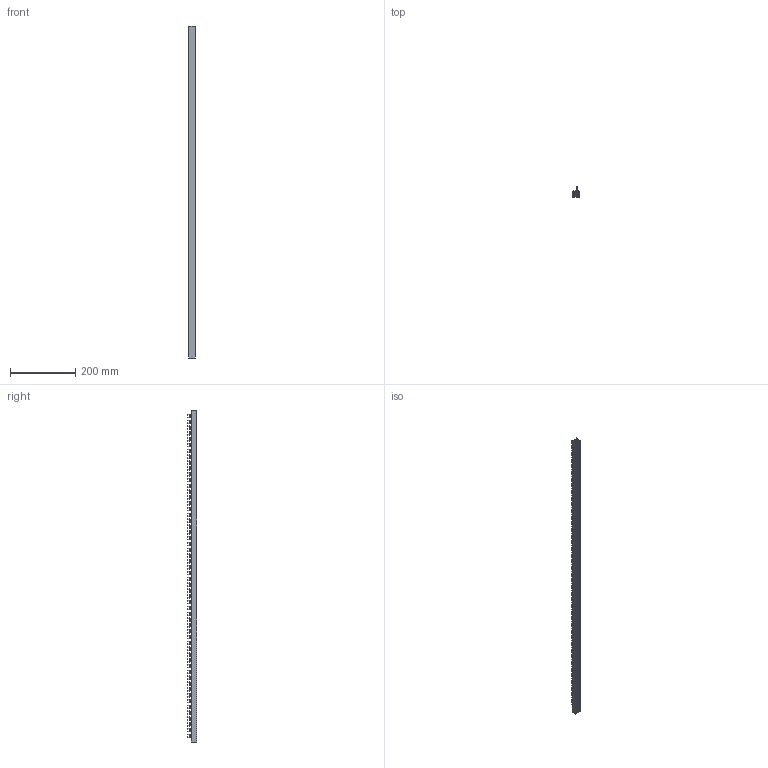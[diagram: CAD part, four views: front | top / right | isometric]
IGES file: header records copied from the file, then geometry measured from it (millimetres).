
Start section: SolidWorks IGES file using analytic representation for surfaces
Global section: file name: U:\14_RD\05_Technical_office\04_Office\Hrdinova\3D modely - IGES\Minia\G4L-1000-16.IGS; native system: SolidWorks 2011; preprocessor: SolidWorks 2011; author: adhrja3; date: 170615.074401; units: millimetre
Bounding box: 20.42 x 30 x 1016 mm (x, y, z)
Surface area: 360095.7 mm2 (no closed solid volume)
Topology: 0 solids, 0 shells, 1689 faces, 18114 edges, 18114 vertices
Faces by surface type: revolution 913, bspline 776
